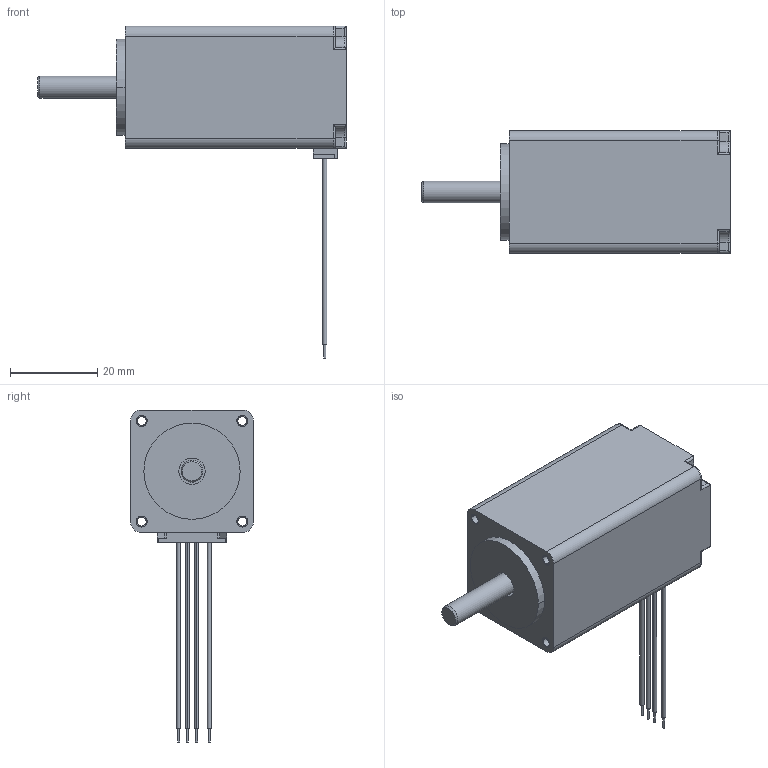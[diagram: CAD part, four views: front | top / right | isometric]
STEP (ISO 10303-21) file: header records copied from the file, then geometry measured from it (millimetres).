
FILE_DESCRIPTION( ('This file contains a STEP AP42 implementation' ,'as created by ZW3D STEP Interface translator.' ,'') ,'2;1' );
FILE_NAME( '28H51H-0XXXA-XXX.stp' ,'26 114.151419', (''), ('ZWCAD Software Co.'), 'Version 1.0', 'ZW3D to STEP translator', '' );
FILE_SCHEMA(('AUTOMOTIVE_DESIGN { 1 0 10303 214 1 1 1 1 }'));
Length unit declared in the file: millimetre
Products named in the file (1): 0
Bounding box: 70.55 x 28 x 75.9 mm (x, y, z)
Volume: 21344.3 mm3; surface area: 23947.5 mm2
Topology: 1 solids, 5 shells, 947 faces, 2886 edges, 1799 vertices
Faces by surface type: plane 610, cylinder 296, torus 27, cone 10, bspline 4
Full cylindrical faces by diameter (mm): 0.5 x7, 1 x2, 1.4 x8, 2.8 x4, 3 x4, 4.2 x1, 5 x1, 6 x2, 7 x1, 8 x2, 8.5 x1, 10 x1, 10.5 x1, 14 x1, 16.9 x1
Entity records: 33602 total; most frequent: CARTESIAN_POINT 6101, ORIENTED_EDGE 5756, DIRECTION 5528, EDGE_CURVE 2886, VECTOR 2020, LINE 2020, VERTEX_POINT 1799, AXIS2_PLACEMENT_3D 1754
